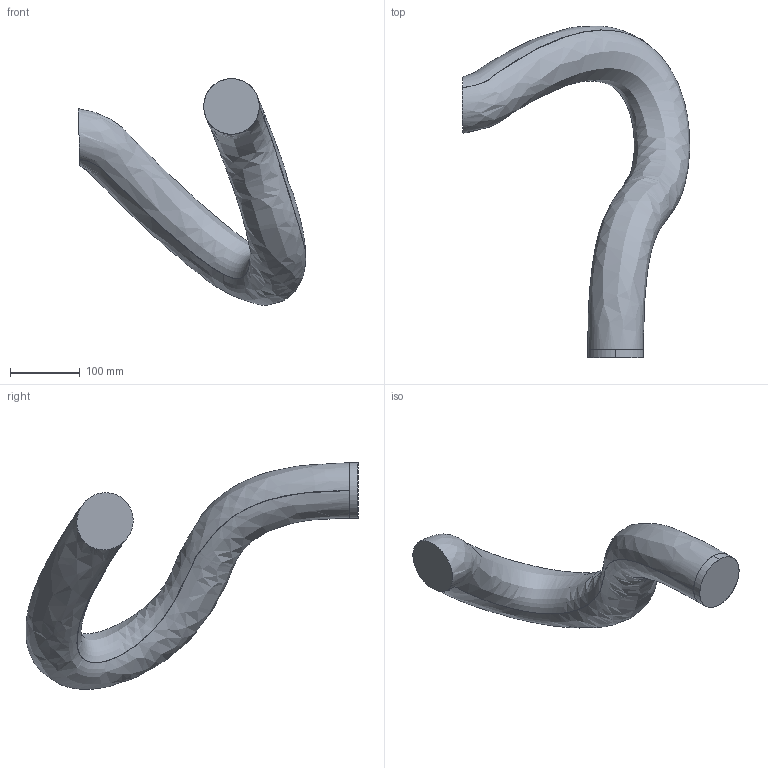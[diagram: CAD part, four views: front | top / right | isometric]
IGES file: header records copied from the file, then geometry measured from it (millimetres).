
Start section: SolidWorks IGES file using analytic representation for surfaces
Global section: file name: C:\DATA\SAP_DOC\LW\IRB 6720\IRB6720-LID-MH_200kg-280_OC_01_SW_J\export\IRB6720-LID-MH_200kg-280_OC_01_IGES_J\IRB6720-LID_200kg-280_OC_00_LINK05_CABLE.igs; native system: SolidWorks 2024; preprocessor: SolidWorks 2024; author: SEJOVAS3; date: 260526.091404; units: millimetre
Bounding box: 327.3 x 477.71 x 326.16 mm (x, y, z)
Surface area: 230757 mm2 (no closed solid volume)
Topology: 0 solids, 0 shells, 6 faces, 187 edges, 187 vertices
Faces by surface type: bspline 4, revolution 2
